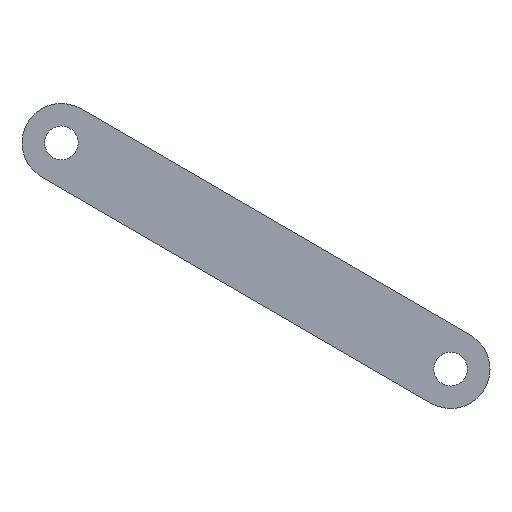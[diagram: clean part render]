
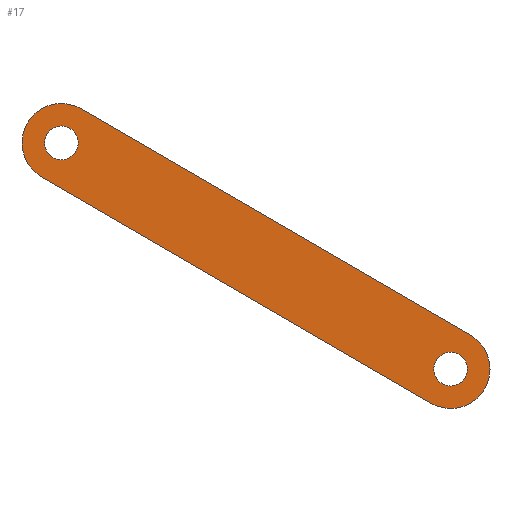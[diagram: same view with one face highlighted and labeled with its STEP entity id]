
A CAD part, left-side view. The second image highlights one B-rep face of the part: STEP entity #17.
In plain terms, the highlighted planar face has unit normal (-1, 0, 0).
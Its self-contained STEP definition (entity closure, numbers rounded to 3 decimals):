
#17 = ADVANCED_FACE('',(#18,#143,#174),#32,.F.);
#18 = FACE_BOUND('',#19,.F.);
#19 = EDGE_LOOP('',(#20,#55,#84,#112));
#20 = ORIENTED_EDGE('',*,*,#21,.F.);
#21 = EDGE_CURVE('',#22,#24,#26,.T.);
#22 = VERTEX_POINT('',#23);
#23 = CARTESIAN_POINT('',(-22.,120.093,0.321));
#24 = VERTEX_POINT('',#25);
#25 = CARTESIAN_POINT('',(-22.,147.793,16.421));
#26 = SURFACE_CURVE('',#27,(#31,#43),.PCURVE_S1.);
#27 = LINE('',#28,#29);
#28 = CARTESIAN_POINT('',(-22.,120.093,0.321));
#29 = VECTOR('',#30,1.);
#30 = DIRECTION('',(0.,0.865,0.503));
#31 = PCURVE('',#32,#37);
#32 = PLANE('',#33);
#33 = AXIS2_PLACEMENT_3D('',#34,#35,#36);
#34 = CARTESIAN_POINT('',(-22.,121.5,-2.1));
#35 = DIRECTION('',(1.,0.,0.));
#36 = DIRECTION('',(-0.,0.,1.));
#37 = DEFINITIONAL_REPRESENTATION('',(#38),#42);
#38 = LINE('',#39,#40);
#39 = CARTESIAN_POINT('',(2.421,1.407));
#40 = VECTOR('',#41,1.);
#41 = DIRECTION('',(0.503,-0.865));
#42 = ( GEOMETRIC_REPRESENTATION_CONTEXT(2) 
PARAMETRIC_REPRESENTATION_CONTEXT() REPRESENTATION_CONTEXT('2D SPACE',''
  ) );
#43 = PCURVE('',#44,#49);
#44 = PLANE('',#45);
#45 = AXIS2_PLACEMENT_3D('',#46,#47,#48);
#46 = CARTESIAN_POINT('',(-22.,120.093,0.321));
#47 = DIRECTION('',(0.,-0.503,0.865));
#48 = DIRECTION('',(1.,0.,0.));
#49 = DEFINITIONAL_REPRESENTATION('',(#50),#54);
#50 = LINE('',#51,#52);
#51 = CARTESIAN_POINT('',(0.,0.));
#52 = VECTOR('',#53,1.);
#53 = DIRECTION('',(0.,1.));
#54 = ( GEOMETRIC_REPRESENTATION_CONTEXT(2) 
PARAMETRIC_REPRESENTATION_CONTEXT() REPRESENTATION_CONTEXT('2D SPACE',''
  ) );
#55 = ORIENTED_EDGE('',*,*,#56,.T.);
#56 = EDGE_CURVE('',#22,#57,#59,.T.);
#57 = VERTEX_POINT('',#58);
#58 = CARTESIAN_POINT('',(-22.,122.907,-4.521));
#59 = SURFACE_CURVE('',#60,(#65,#72),.PCURVE_S1.);
#60 = CIRCLE('',#61,2.8);
#61 = AXIS2_PLACEMENT_3D('',#62,#63,#64);
#62 = CARTESIAN_POINT('',(-22.,121.5,-2.1));
#63 = DIRECTION('',(1.,0.,0.));
#64 = DIRECTION('',(-0.,0.,1.));
#65 = PCURVE('',#32,#66);
#66 = DEFINITIONAL_REPRESENTATION('',(#67),#71);
#67 = CIRCLE('',#68,2.8);
#68 = AXIS2_PLACEMENT_2D('',#69,#70);
#69 = CARTESIAN_POINT('',(0.,0.));
#70 = DIRECTION('',(1.,0.));
#71 = ( GEOMETRIC_REPRESENTATION_CONTEXT(2) 
PARAMETRIC_REPRESENTATION_CONTEXT() REPRESENTATION_CONTEXT('2D SPACE',''
  ) );
#72 = PCURVE('',#73,#78);
#73 = CYLINDRICAL_SURFACE('',#74,2.8);
#74 = AXIS2_PLACEMENT_3D('',#75,#76,#77);
#75 = CARTESIAN_POINT('',(-22.,121.5,-2.1));
#76 = DIRECTION('',(1.,0.,0.));
#77 = DIRECTION('',(-0.,0.,1.));
#78 = DEFINITIONAL_REPRESENTATION('',(#79),#83);
#79 = LINE('',#80,#81);
#80 = CARTESIAN_POINT('',(0.,0.));
#81 = VECTOR('',#82,1.);
#82 = DIRECTION('',(1.,0.));
#83 = ( GEOMETRIC_REPRESENTATION_CONTEXT(2) 
PARAMETRIC_REPRESENTATION_CONTEXT() REPRESENTATION_CONTEXT('2D SPACE',''
  ) );
#84 = ORIENTED_EDGE('',*,*,#85,.T.);
#85 = EDGE_CURVE('',#57,#86,#88,.T.);
#86 = VERTEX_POINT('',#87);
#87 = CARTESIAN_POINT('',(-22.,150.607,11.579));
#88 = SURFACE_CURVE('',#89,(#93,#100),.PCURVE_S1.);
#89 = LINE('',#90,#91);
#90 = CARTESIAN_POINT('',(-22.,122.907,-4.521));
#91 = VECTOR('',#92,1.);
#92 = DIRECTION('',(0.,0.865,0.503));
#93 = PCURVE('',#32,#94);
#94 = DEFINITIONAL_REPRESENTATION('',(#95),#99);
#95 = LINE('',#96,#97);
#96 = CARTESIAN_POINT('',(-2.421,-1.407));
#97 = VECTOR('',#98,1.);
#98 = DIRECTION('',(0.503,-0.865));
#99 = ( GEOMETRIC_REPRESENTATION_CONTEXT(2) 
PARAMETRIC_REPRESENTATION_CONTEXT() REPRESENTATION_CONTEXT('2D SPACE',''
  ) );
#100 = PCURVE('',#101,#106);
#101 = PLANE('',#102);
#102 = AXIS2_PLACEMENT_3D('',#103,#104,#105);
#103 = CARTESIAN_POINT('',(-22.,122.907,-4.521));
#104 = DIRECTION('',(0.,-0.503,0.865));
#105 = DIRECTION('',(1.,0.,0.));
#106 = DEFINITIONAL_REPRESENTATION('',(#107),#111);
#107 = LINE('',#108,#109);
#108 = CARTESIAN_POINT('',(0.,0.));
#109 = VECTOR('',#110,1.);
#110 = DIRECTION('',(0.,1.));
#111 = ( GEOMETRIC_REPRESENTATION_CONTEXT(2) 
PARAMETRIC_REPRESENTATION_CONTEXT() REPRESENTATION_CONTEXT('2D SPACE',''
  ) );
#112 = ORIENTED_EDGE('',*,*,#113,.F.);
#113 = EDGE_CURVE('',#24,#86,#114,.T.);
#114 = SURFACE_CURVE('',#115,(#120,#131),.PCURVE_S1.);
#115 = CIRCLE('',#116,2.8);
#116 = AXIS2_PLACEMENT_3D('',#117,#118,#119);
#117 = CARTESIAN_POINT('',(-22.,149.2,14.));
#118 = DIRECTION('',(-1.,0.,0.));
#119 = DIRECTION('',(0.,-0.503,0.865));
#120 = PCURVE('',#32,#121);
#121 = DEFINITIONAL_REPRESENTATION('',(#122),#130);
#122 = ( BOUNDED_CURVE() B_SPLINE_CURVE(2,(#123,#124,#125,#126,#127,#128
,#129),.UNSPECIFIED.,.T.,.F.) B_SPLINE_CURVE_WITH_KNOTS((1,2,2,2,2,1),(
    -2.094,0.,2.094,4.189,6.283,
8.378),.UNSPECIFIED.) CURVE() GEOMETRIC_REPRESENTATION_ITEM() 
RATIONAL_B_SPLINE_CURVE((1.,0.5,1.,0.5,1.,0.5,1.)) REPRESENTATION_ITEM(
  '') );
#123 = CARTESIAN_POINT('',(18.521,-26.293));
#124 = CARTESIAN_POINT('',(20.958,-30.486));
#125 = CARTESIAN_POINT('',(16.108,-30.5));
#126 = CARTESIAN_POINT('',(11.258,-30.514));
#127 = CARTESIAN_POINT('',(13.671,-26.307));
#128 = CARTESIAN_POINT('',(16.084,-22.1));
#129 = CARTESIAN_POINT('',(18.521,-26.293));
#130 = ( GEOMETRIC_REPRESENTATION_CONTEXT(2) 
PARAMETRIC_REPRESENTATION_CONTEXT() REPRESENTATION_CONTEXT('2D SPACE',''
  ) );
#131 = PCURVE('',#132,#137);
#132 = CYLINDRICAL_SURFACE('',#133,2.8);
#133 = AXIS2_PLACEMENT_3D('',#134,#135,#136);
#134 = CARTESIAN_POINT('',(-22.,149.2,14.));
#135 = DIRECTION('',(1.,0.,0.));
#136 = DIRECTION('',(-0.,0.,1.));
#137 = DEFINITIONAL_REPRESENTATION('',(#138),#142);
#138 = LINE('',#139,#140);
#139 = CARTESIAN_POINT('',(6.81,0.));
#140 = VECTOR('',#141,1.);
#141 = DIRECTION('',(-1.,-0.));
#142 = ( GEOMETRIC_REPRESENTATION_CONTEXT(2) 
PARAMETRIC_REPRESENTATION_CONTEXT() REPRESENTATION_CONTEXT('2D SPACE',''
  ) );
#143 = FACE_BOUND('',#144,.F.);
#144 = EDGE_LOOP('',(#145));
#145 = ORIENTED_EDGE('',*,*,#146,.F.);
#146 = EDGE_CURVE('',#147,#147,#149,.T.);
#147 = VERTEX_POINT('',#148);
#148 = CARTESIAN_POINT('',(-22.,149.2,15.2));
#149 = SURFACE_CURVE('',#150,(#155,#162),.PCURVE_S1.);
#150 = CIRCLE('',#151,1.2);
#151 = AXIS2_PLACEMENT_3D('',#152,#153,#154);
#152 = CARTESIAN_POINT('',(-22.,149.2,14.));
#153 = DIRECTION('',(1.,0.,0.));
#154 = DIRECTION('',(-0.,0.,1.));
#155 = PCURVE('',#32,#156);
#156 = DEFINITIONAL_REPRESENTATION('',(#157),#161);
#157 = CIRCLE('',#158,1.2);
#158 = AXIS2_PLACEMENT_2D('',#159,#160);
#159 = CARTESIAN_POINT('',(16.1,-27.7));
#160 = DIRECTION('',(1.,0.));
#161 = ( GEOMETRIC_REPRESENTATION_CONTEXT(2) 
PARAMETRIC_REPRESENTATION_CONTEXT() REPRESENTATION_CONTEXT('2D SPACE',''
  ) );
#162 = PCURVE('',#163,#168);
#163 = CYLINDRICAL_SURFACE('',#164,1.2);
#164 = AXIS2_PLACEMENT_3D('',#165,#166,#167);
#165 = CARTESIAN_POINT('',(-22.2,149.2,14.));
#166 = DIRECTION('',(1.,0.,0.));
#167 = DIRECTION('',(-0.,0.,1.));
#168 = DEFINITIONAL_REPRESENTATION('',(#169),#173);
#169 = LINE('',#170,#171);
#170 = CARTESIAN_POINT('',(0.,0.2));
#171 = VECTOR('',#172,1.);
#172 = DIRECTION('',(1.,0.));
#173 = ( GEOMETRIC_REPRESENTATION_CONTEXT(2) 
PARAMETRIC_REPRESENTATION_CONTEXT() REPRESENTATION_CONTEXT('2D SPACE',''
  ) );
#174 = FACE_BOUND('',#175,.F.);
#175 = EDGE_LOOP('',(#176));
#176 = ORIENTED_EDGE('',*,*,#177,.F.);
#177 = EDGE_CURVE('',#178,#178,#180,.T.);
#178 = VERTEX_POINT('',#179);
#179 = CARTESIAN_POINT('',(-22.,121.5,-0.9));
#180 = SURFACE_CURVE('',#181,(#186,#193),.PCURVE_S1.);
#181 = CIRCLE('',#182,1.2);
#182 = AXIS2_PLACEMENT_3D('',#183,#184,#185);
#183 = CARTESIAN_POINT('',(-22.,121.5,-2.1));
#184 = DIRECTION('',(1.,0.,0.));
#185 = DIRECTION('',(-0.,0.,1.));
#186 = PCURVE('',#32,#187);
#187 = DEFINITIONAL_REPRESENTATION('',(#188),#192);
#188 = CIRCLE('',#189,1.2);
#189 = AXIS2_PLACEMENT_2D('',#190,#191);
#190 = CARTESIAN_POINT('',(0.,0.));
#191 = DIRECTION('',(1.,0.));
#192 = ( GEOMETRIC_REPRESENTATION_CONTEXT(2) 
PARAMETRIC_REPRESENTATION_CONTEXT() REPRESENTATION_CONTEXT('2D SPACE',''
  ) );
#193 = PCURVE('',#194,#199);
#194 = CYLINDRICAL_SURFACE('',#195,1.2);
#195 = AXIS2_PLACEMENT_3D('',#196,#197,#198);
#196 = CARTESIAN_POINT('',(-22.2,121.5,-2.1));
#197 = DIRECTION('',(1.,0.,0.));
#198 = DIRECTION('',(-0.,0.,1.));
#199 = DEFINITIONAL_REPRESENTATION('',(#200),#204);
#200 = LINE('',#201,#202);
#201 = CARTESIAN_POINT('',(0.,0.2));
#202 = VECTOR('',#203,1.);
#203 = DIRECTION('',(1.,0.));
#204 = ( GEOMETRIC_REPRESENTATION_CONTEXT(2) 
PARAMETRIC_REPRESENTATION_CONTEXT() REPRESENTATION_CONTEXT('2D SPACE',''
  ) );
